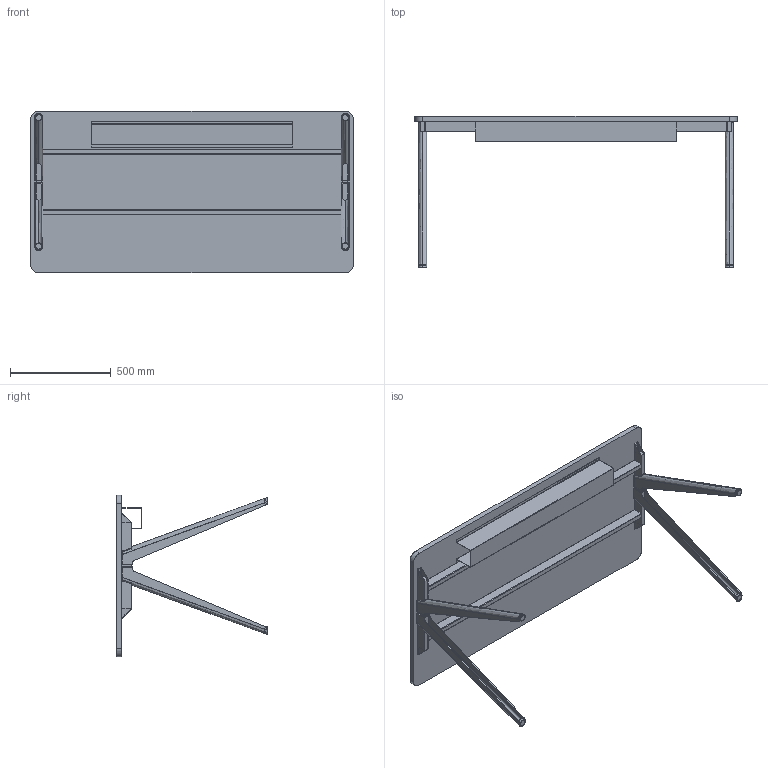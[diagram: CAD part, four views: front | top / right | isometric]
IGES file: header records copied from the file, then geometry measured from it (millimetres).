
Start section: SolidWorks IGES file using analytic representation for surfaces
Global section: file name: C:\Users\simone.cerana\OneDrive - Gruppo Tecno\Desktop\CHINA\DISEGNI DI SERIE\ASSIEMI LISTINO\HORIZON LISTINO\FULL OPTIONAL\HO1608FO.IGS; native system: SolidWorks 2024; preprocessor: SolidWorks 2024; author: simone.cerana; date: 260512.144713; units: millimetre
Bounding box: 1600 x 750.58 x 800 mm (x, y, z)
Surface area: 4482578.4 mm2 (no closed solid volume)
Topology: 0 solids, 0 shells, 292 faces, 3808 edges, 3808 vertices
Faces by surface type: bspline 198, revolution 94
